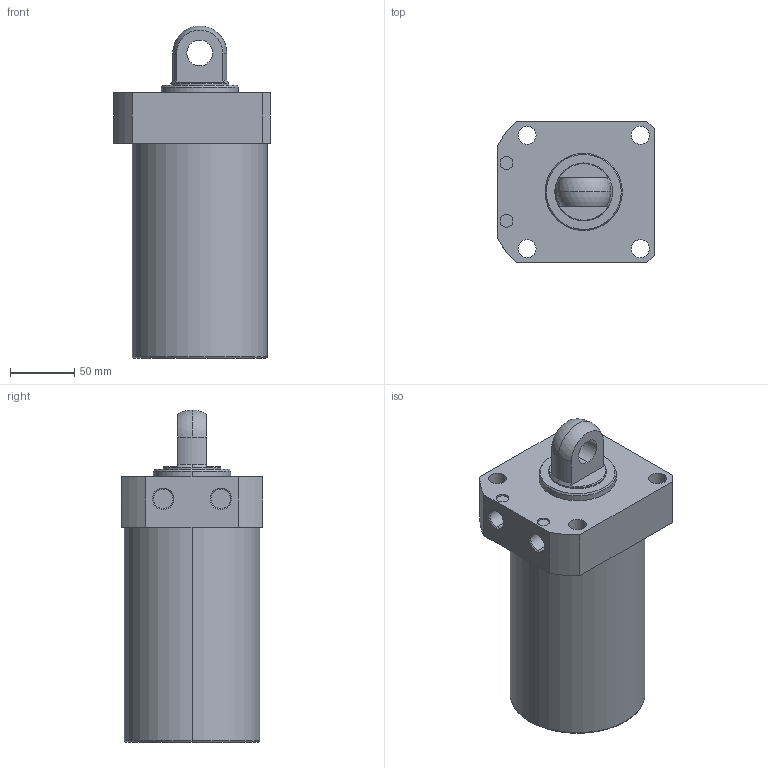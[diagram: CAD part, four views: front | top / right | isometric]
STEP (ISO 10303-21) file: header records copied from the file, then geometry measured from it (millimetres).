
FILE_DESCRIPTION (( 'STEP AP203' ), '1' );
FILE_NAME ('CLLR-105CP-120.STEP', '2019-12-18T08:08:29', ( '' ), ( '' ), 'SwSTEP 2.0', 'SolidWorks 2015', '' );
FILE_SCHEMA (( 'CONFIG_CONTROL_DESIGN' ));
Length unit declared in the file: millimetre
Products named in the file (1): CLLR-105CP-120
Bounding box: 122 x 110 x 258 mm (x, y, z)
Volume: 1972158.7 mm3; surface area: 112614.7 mm2
Topology: 1 solids, 1 shells, 59 faces, 139 edges, 89 vertices
Faces by surface type: cylinder 29, plane 18, cone 8, torus 2, sphere 2
Entity records: 1822 total; most frequent: DIRECTION 331, CARTESIAN_POINT 300, ORIENTED_EDGE 278, EDGE_CURVE 139, AXIS2_PLACEMENT_3D 136, VERTEX_POINT 89, EDGE_LOOP 76, CIRCLE 76
